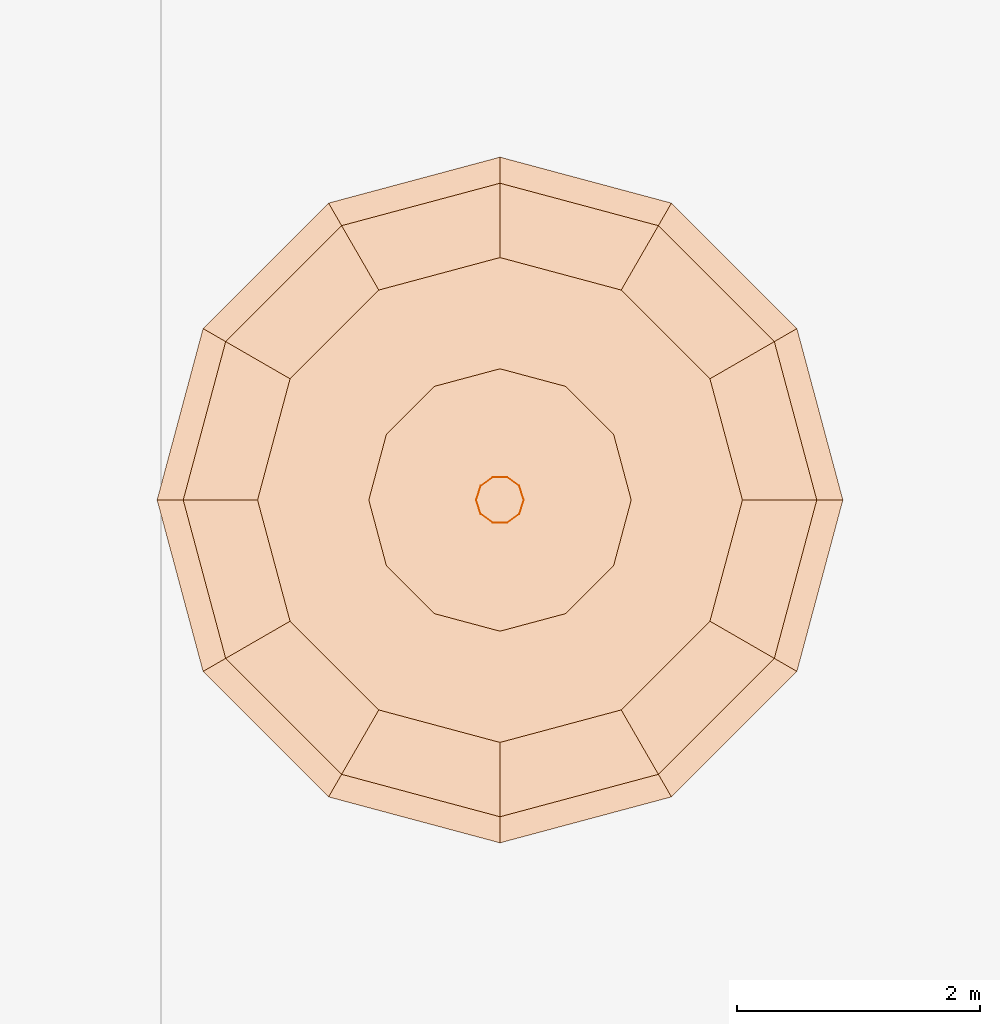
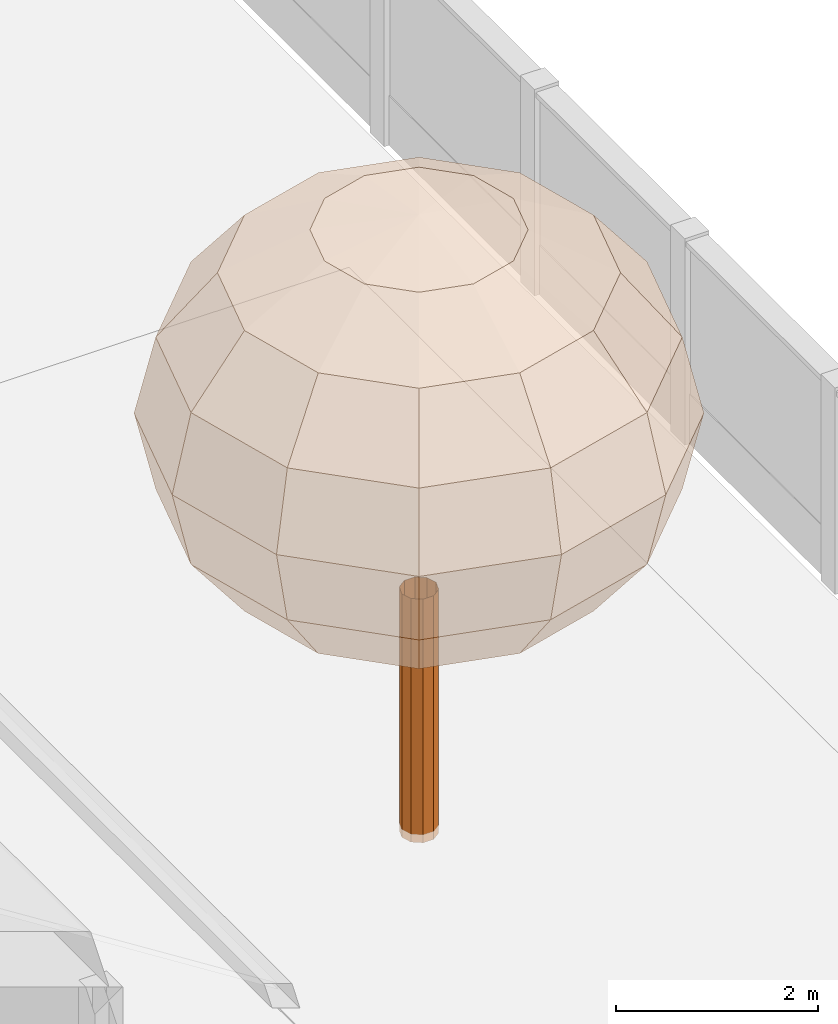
# One storey, part 165 of 177: 2 geographic elements.
"""IFC4 building model written with IfcOpenShell, lengths in metres."""

from ifc_helpers import new_model, si_unit, origin, origin_with_axes, place, context, subcontext, project, spatial, triangles, element, save


model = new_model("IFC4")

# Units and contexts
model_context = context("Model", 3, precision=1e-05, world=origin_with_axes())
body_context = subcontext(model_context, "Body", "Model", "MODEL_VIEW")
ifc_project = project(units=[si_unit("LENGTHUNIT", "METRE"), si_unit("AREAUNIT", "SQUARE_METRE"), si_unit("VOLUMEUNIT", "CUBIC_METRE"), si_unit("PLANEANGLEUNIT", "RADIAN")], contexts=[model_context])

# Site, building, storey
site_placement = place(None, origin_with_axes())
site = spatial("IfcSite", under=ifc_project, at=site_placement, Name="Predio Los Mangos - Morales, San Martín", CompositionType="ELEMENT")
building_placement = place(site_placement, origin())
building = spatial("IfcBuilding", under=site, at=building_placement, Name="Hogar de Refugio Temporal", CompositionType="ELEMENT")
storey_placement = place(building_placement, origin())
storey = spatial("IfcBuildingStorey", under=building, at=storey_placement, Name="NIVEL 1 (NPT +0.00)", CompositionType="ELEMENT", Elevation=0.0)

# Geographic elements
geographic_element_1_placement = place(storey_placement, origin())
element("IfcGeographicElement", 1, at=geographic_element_1_placement, inside=storey, Name="arbol_tronco", ObjectType="Árbol", PredefinedType="NOTDEFINED", context=body_context, shape_type="Tessellation", body=[
    triangles([(66.1965, 70.0, 0.0), (66.159, 70.1155, 0.0), (66.0607, 70.1869, 0.0), (65.9393, 70.1869, 0.0), (65.841, 70.1155, 0.0), (65.8035, 70.0, 0.0), (65.841, 69.8845, 0.0), (65.9393, 69.8131, 0.0), (66.0607, 69.8131, 0.0), (66.159, 69.8845, 0.0), (66.1965, 70.0, 2.948), (66.159, 70.1155, 2.948), (66.0607, 70.1869, 2.948), (65.9393, 70.1869, 2.948), (65.841, 70.1155, 2.948), (65.8035, 70.0, 2.948), (65.841, 69.8845, 2.948), (65.9393, 69.8131, 2.948), (66.0607, 69.8131, 2.948), (66.159, 69.8845, 2.948)], [[1, 2, 12], [2, 3, 13], [3, 4, 14], [4, 5, 15], [5, 6, 16], [6, 7, 17], [7, 8, 18], [8, 9, 19], [9, 10, 20], [10, 1, 11], [1, 12, 11], [2, 13, 12], [3, 14, 13], [4, 15, 14], [5, 16, 15], [6, 17, 16], [7, 18, 17], [8, 19, 18], [9, 20, 19], [10, 11, 20]]),
])
geographic_element_2_placement = place(storey_placement, origin())
element("IfcGeographicElement", 2, at=geographic_element_2_placement, inside=storey, Name="arbol_copa", ObjectType="Árbol", PredefinedType="NOTDEFINED", context=body_context, shape_type="Tessellation", body=[
    triangles([(66.0, 70.0, 7.4682), (66.0, 70.0, 7.4682), (66.0, 70.0, 7.4682), (66.0, 70.0, 7.4682), (66.0, 70.0, 7.4682), (66.0, 70.0, 7.4682), (66.0, 70.0, 7.4682), (66.0, 70.0, 7.4682), (66.0, 70.0, 7.4682), (66.0, 70.0, 7.4682), (66.0, 70.0, 7.4682), (66.0, 70.0, 7.4682), (67.0811, 70.0, 7.2854), (66.9363, 70.5406, 7.2854), (66.5406, 70.9363, 7.2854), (66.0, 71.0811, 7.2854), (65.4594, 70.9363, 7.2854), (65.0637, 70.5406, 7.2854), (64.9189, 70.0, 7.2854), (65.0637, 69.4594, 7.2854), (65.4594, 69.0637, 7.2854), (66.0, 68.9189, 7.2854), (66.5406, 69.0637, 7.2854), (66.9363, 69.4594, 7.2854), (67.9977, 70.0, 6.7649), (67.73, 70.9988, 6.7649), (66.9988, 71.73, 6.7649), (66.0, 71.9977, 6.7649), (65.0012, 71.73, 6.7649), (64.27, 70.9988, 6.7649), (64.0023, 70.0, 6.7649), (64.27, 69.0012, 6.7649), (65.0012, 68.27, 6.7649), (66.0, 68.0023, 6.7649), (66.9988, 68.27, 6.7649), (67.73, 69.0012, 6.7649), (68.6101, 70.0, 5.9858), (68.2604, 71.305, 5.9858), (67.305, 72.2604, 5.9858), (66.0, 72.6101, 5.9858), (64.695, 72.2604, 5.9858), (63.7396, 71.305, 5.9858), (63.3899, 70.0, 5.9858), (63.7396, 68.695, 5.9858), (64.695, 67.7396, 5.9858), (66.0, 67.3899, 5.9858), (67.305, 67.7396, 5.9858), (68.2604, 68.695, 5.9858), (68.8251, 70.0, 5.0668), (68.4466, 71.4126, 5.0668), (67.4126, 72.4466, 5.0668), (66.0, 72.8251, 5.0668), (64.5874, 72.4466, 5.0668), (63.5534, 71.4126, 5.0668), (63.1749, 70.0, 5.0668), (63.5534, 68.5874, 5.0668), (64.5874, 67.5534, 5.0668), (66.0, 67.1749, 5.0668), (67.4126, 67.5534, 5.0668), (68.4466, 68.5874, 5.0668), (68.6101, 70.0, 4.1479), (68.2604, 71.305, 4.1479), (67.305, 72.2604, 4.1479), (66.0, 72.6101, 4.1479), (64.695, 72.2604, 4.1479), (63.7396, 71.305, 4.1479), (63.3899, 70.0, 4.1479), (63.7396, 68.695, 4.1479), (64.695, 67.7396, 4.1479), (66.0, 67.3899, 4.1479), (67.305, 67.7396, 4.1479), (68.2604, 68.695, 4.1479), (67.9977, 70.0, 3.3688), (67.73, 70.9988, 3.3688), (66.9988, 71.73, 3.3688), (66.0, 71.9977, 3.3688), (65.0012, 71.73, 3.3688), (64.27, 70.9988, 3.3688), (64.0023, 70.0, 3.3688), (64.27, 69.0012, 3.3688), (65.0012, 68.27, 3.3688), (66.0, 68.0023, 3.3688), (66.9988, 68.27, 3.3688), (67.73, 69.0012, 3.3688), (67.0811, 70.0, 2.8483), (66.9363, 70.5406, 2.8483), (66.5406, 70.9363, 2.8483), (66.0, 71.0811, 2.8483), (65.4594, 70.9363, 2.8483), (65.0637, 70.5406, 2.8483), (64.9189, 70.0, 2.8483), (65.0637, 69.4594, 2.8483), (65.4594, 69.0637, 2.8483), (66.0, 68.9189, 2.8483), (66.5406, 69.0637, 2.8483), (66.9363, 69.4594, 2.8483), (66.0, 70.0, 2.6655), (66.0, 70.0, 2.6655), (66.0, 70.0, 2.6655), (66.0, 70.0, 2.6655), (66.0, 70.0, 2.6655), (66.0, 70.0, 2.6655), (66.0, 70.0, 2.6655), (66.0, 70.0, 2.6655), (66.0, 70.0, 2.6655), (66.0, 70.0, 2.6655), (66.0, 70.0, 2.6655), (66.0, 70.0, 2.6655)], [[1, 2, 14], [1, 14, 13], [2, 3, 15], [2, 15, 14], [3, 4, 16], [3, 16, 15], [4, 5, 17], [4, 17, 16], [5, 6, 18], [5, 18, 17], [6, 7, 19], [6, 19, 18], [7, 8, 20], [7, 20, 19], [8, 9, 21], [8, 21, 20], [9, 10, 22], [9, 22, 21], [10, 11, 23], [10, 23, 22], [11, 12, 24], [11, 24, 23], [12, 1, 13], [12, 13, 24], [13, 14, 26], [13, 26, 25], [14, 15, 27], [14, 27, 26], [15, 16, 28], [15, 28, 27], [16, 17, 29], [16, 29, 28], [17, 18, 30], [17, 30, 29], [18, 19, 31], [18, 31, 30], [19, 20, 32], [19, 32, 31], [20, 21, 33], [20, 33, 32], [21, 22, 34], [21, 34, 33], [22, 23, 35], [22, 35, 34], [23, 24, 36], [23, 36, 35], [24, 13, 25], [24, 25, 36], [25, 26, 38], [25, 38, 37], [26, 27, 39], [26, 39, 38], [27, 28, 40], [27, 40, 39], [28, 29, 41], [28, 41, 40], [29, 30, 42], [29, 42, 41], [30, 31, 43], [30, 43, 42], [31, 32, 44], [31, 44, 43], [32, 33, 45], [32, 45, 44], [33, 34, 46], [33, 46, 45], [34, 35, 47], [34, 47, 46], [35, 36, 48], [35, 48, 47], [36, 25, 37], [36, 37, 48], [37, 38, 50], [37, 50, 49], [38, 39, 51], [38, 51, 50], [39, 40, 52], [39, 52, 51], [40, 41, 53], [40, 53, 52], [41, 42, 54], [41, 54, 53], [42, 43, 55], [42, 55, 54], [43, 44, 56], [43, 56, 55], [44, 45, 57], [44, 57, 56], [45, 46, 58], [45, 58, 57], [46, 47, 59], [46, 59, 58], [47, 48, 60], [47, 60, 59], [48, 37, 49], [48, 49, 60], [49, 50, 62], [49, 62, 61], [50, 51, 63], [50, 63, 62], [51, 52, 64], [51, 64, 63], [52, 53, 65], [52, 65, 64], [53, 54, 66], [53, 66, 65], [54, 55, 67], [54, 67, 66], [55, 56, 68], [55, 68, 67], [56, 57, 69], [56, 69, 68], [57, 58, 70], [57, 70, 69], [58, 59, 71], [58, 71, 70], [59, 60, 72], [59, 72, 71], [60, 49, 61], [60, 61, 72], [61, 62, 74], [61, 74, 73], [62, 63, 75], [62, 75, 74], [63, 64, 76], [63, 76, 75], [64, 65, 77], [64, 77, 76], [65, 66, 78], [65, 78, 77], [66, 67, 79], [66, 79, 78], [67, 68, 80], [67, 80, 79], [68, 69, 81], [68, 81, 80], [69, 70, 82], [69, 82, 81], [70, 71, 83], [70, 83, 82], [71, 72, 84], [71, 84, 83], [72, 61, 73], [72, 73, 84], [73, 74, 86], [73, 86, 85], [74, 75, 87], [74, 87, 86], [75, 76, 88], [75, 88, 87], [76, 77, 89], [76, 89, 88], [77, 78, 90], [77, 90, 89], [78, 79, 91], [78, 91, 90], [79, 80, 92], [79, 92, 91], [80, 81, 93], [80, 93, 92], [81, 82, 94], [81, 94, 93], [82, 83, 95], [82, 95, 94], [83, 84, 96], [83, 96, 95], [84, 73, 85], [84, 85, 96], [85, 86, 98], [85, 98, 97], [86, 87, 99], [86, 99, 98], [87, 88, 100], [87, 100, 99], [88, 89, 101], [88, 101, 100], [89, 90, 102], [89, 102, 101], [90, 91, 103], [90, 103, 102], [91, 92, 104], [91, 104, 103], [92, 93, 105], [92, 105, 104], [93, 94, 106], [93, 106, 105], [94, 95, 107], [94, 107, 106], [95, 96, 108], [95, 108, 107], [96, 85, 97], [96, 97, 108]]),
])

save(model, "model.ifc")
